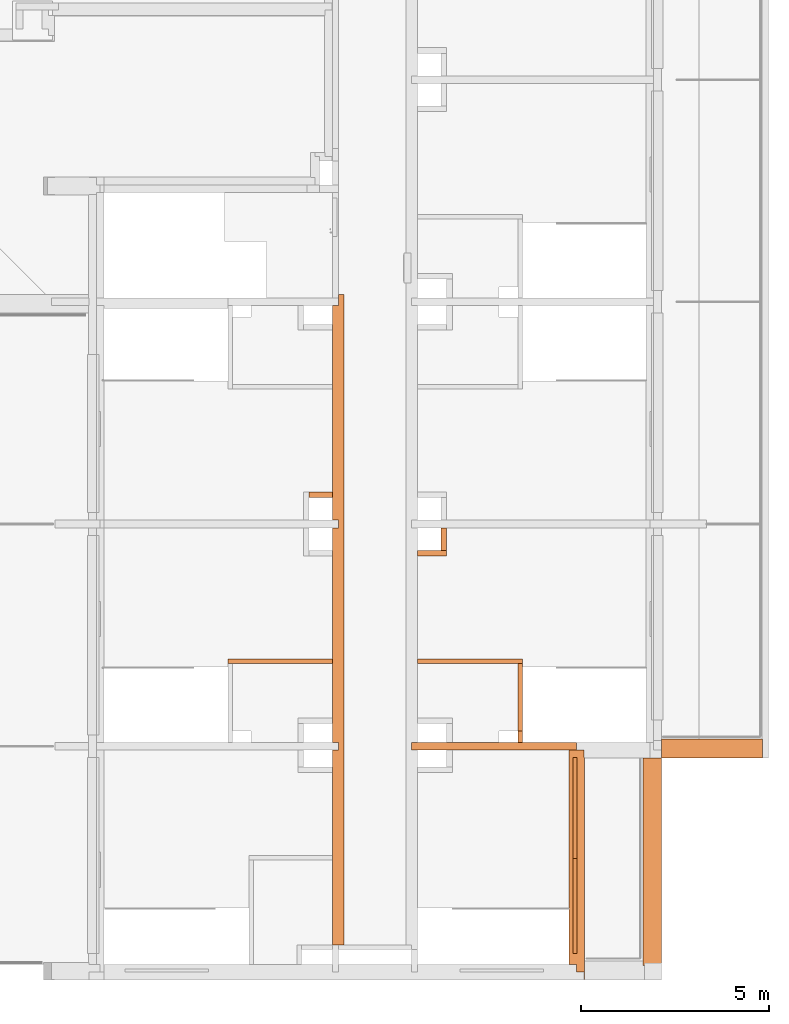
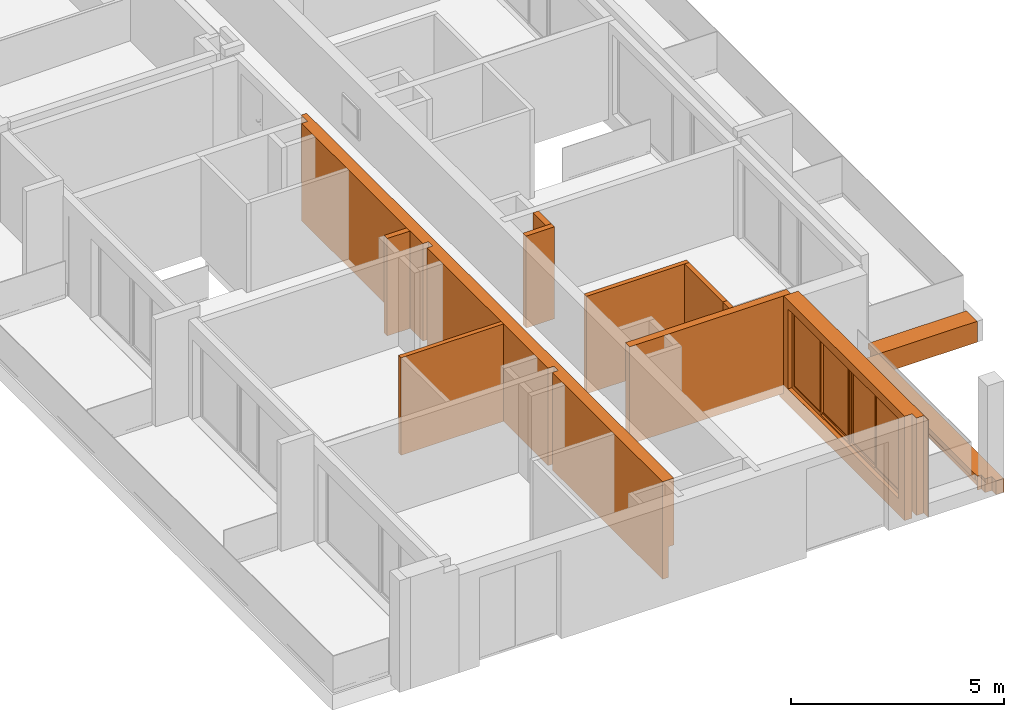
# One storey, part 27 of 30: 14 proxies, 2 openings.
"""IFC2X3 building model written with IfcOpenShell, lengths in millimetres."""

from ifc_helpers import new_model, entity, si_unit, converted_unit, derived_unit, money_unit, direction, frame, origin_with_axes, origin_2d_with_axis, place, context, subcontext, project, spatial, rectangle, extrude, open_shell, faceted_brep, surface_model, material, material_list, type_object, element, fill, save


model = new_model("IFC2X3")

# Units and contexts
model_context = context("Model", 3, precision=0.01, world=origin_with_axes(), true_north=direction((0.34421633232, 0.938890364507)))
body_context = subcontext(model_context, "Body", "Model", "MODEL_VIEW")
ifc_project = project(units=[si_unit("LENGTHUNIT", "METRE", prefix="MILLI"), si_unit("AREAUNIT", "SQUARE_METRE"), si_unit("VOLUMEUNIT", "CUBIC_METRE"), converted_unit("PLANEANGLEUNIT", "DEGREE", entity("IfcPlaneAngleMeasure", 0.0174532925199), si_unit("PLANEANGLEUNIT", "RADIAN"), dimensions=[0, 0, 0, 0, 0, 0, 0]), si_unit("SOLIDANGLEUNIT", "STERADIAN"), money_unit("USD"), converted_unit("TIMEUNIT", "Year", entity("IfcTimeMeasure", 31556926.0), si_unit("TIMEUNIT", "SECOND"), dimensions=[0, 0, 1, 0, 0, 0, 0]), si_unit("MASSUNIT", "GRAM", prefix="KILO"), si_unit("THERMODYNAMICTEMPERATUREUNIT", "DEGREE_CELSIUS"), si_unit("LUMINOUSINTENSITYUNIT", "LUMEN"), si_unit("ENERGYUNIT", "JOULE", prefix="MEGA"), derived_unit("THERMALCONDUCTANCEUNIT", [(si_unit("POWERUNIT", "WATT"), 1), (si_unit("LENGTHUNIT", "METRE"), -1), (si_unit("THERMODYNAMICTEMPERATUREUNIT", "KELVIN"), -1)]), derived_unit("SPECIFICHEATCAPACITYUNIT", [(si_unit("ENERGYUNIT", "JOULE"), 1), (si_unit("MASSUNIT", "GRAM", prefix="KILO"), -1), (si_unit("THERMODYNAMICTEMPERATUREUNIT", "KELVIN"), -1)]), derived_unit("MASSDENSITYUNIT", [(si_unit("MASSUNIT", "GRAM", prefix="KILO"), 1), (si_unit("VOLUMEUNIT", "CUBIC_METRE"), -1)])], contexts=[model_context])

# Site, building, storey
site_placement = place(None, origin_with_axes())
site = spatial("IfcSite", under=ifc_project, at=site_placement, Name="USTRONIE MORSKIE", CompositionType="ELEMENT")
building_placement = place(site_placement, origin_with_axes())
building = spatial("IfcBuilding", under=site, at=building_placement, Name="Budynek", CompositionType="ELEMENT")
storey_placement = place(building_placement, frame((0.0, 0.0, 16000.0), z_axis=(0.0, 0.0, 1.0), x_axis=(1.0, 0.0, 0.0)))
storey = spatial("IfcBuildingStorey", under=building, at=storey_placement, Name="ANTRESOLA - KOND. TECHNICZNA", CompositionType="ELEMENT", Elevation=16000.0)

# Proxies
ifc_material_1 = material(Name="Bloczki silikatowe")
building_element_proxy_type_1 = type_object("IfcBuildingElementProxyType", Name="Bloczki silikatowe 120", PredefinedType="NOTDEFINED")
proxy_1_placement = place(storey_placement, frame((420917.920919, 717361.219701, -159.999998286), z_axis=(0.0, 0.0, 1.0), x_axis=(0.0, -1.0, 0.0)))
element("IfcBuildingElementProxy", 1, at=proxy_1_placement, inside=storey, type_object=building_element_proxy_type_1, material=ifc_material_1, Name="SW-04", context=body_context, shape_type="Brep", body=[
    faceted_brep([(2160.02066499, 60.0, 0.0), (2160.02066499, -60.0, 0.0), (59.9999999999, -60.0, 0.0), (59.9999999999, 60.0, 0.0), (2160.02066499, 60.0, 2800.0), (2160.02066499, -60.0, 2800.0), (59.9999999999, -60.0, 2800.0), (59.9999999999, 60.0, 2800.0)], [[[0, 1, 2, 3]], [[1, 0, 4, 5]], [[1, 5, 6, 2]], [[7, 3, 2, 6]], [[4, 0, 3, 7]], [[5, 4, 7, 6]]]),
])
proxy_2_placement = place(storey_placement, frame((413217.920919, 717361.219701, -159.999998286), z_axis=(0.0, 0.0, 1.0), x_axis=(1.0, 0.0, 0.0)))
element("IfcBuildingElementProxy", 2, at=proxy_2_placement, inside=storey, type_object=building_element_proxy_type_1, material=ifc_material_1, Name="SW-04", context=body_context, shape_type="Brep", body=[
    faceted_brep([(2720.0, -59.9999999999, 2800.0), (2720.0, 59.9999999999, 2800.0), (-60.0, 59.9999999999, 2800.0), (-60.0, -59.9999999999, 2800.0), (2720.0, -59.9999999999, 0.0), (2720.0, 59.9999999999, 0.0), (-60.0, 59.9999999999, 0.0), (-60.0, -59.9999999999, 0.0)], [[[0, 1, 2, 3]], [[1, 0, 4, 5]], [[1, 5, 6, 2]], [[7, 3, 2, 6]], [[4, 0, 3, 7]], [[5, 4, 7, 6]]]),
])
proxy_3_placement = place(storey_placement, frame((420917.920919, 717361.219701, -159.999998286), z_axis=(0.0, 0.0, 1.0), x_axis=(-1.0, 0.0, 0.0)))
element("IfcBuildingElementProxy", 3, at=proxy_3_placement, inside=storey, type_object=building_element_proxy_type_1, material=ifc_material_1, Name="SW-04", context=body_context, shape_type="Brep", body=[
    faceted_brep([(2720.0, 59.9999999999, 0.0), (2720.0, -59.9999999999, 0.0), (-60.0, -59.9999999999, 0.0), (-60.0, 59.9999999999, 0.0), (2720.0, 59.9999999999, 2800.0), (2720.0, -59.9999999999, 2800.0), (-60.0, -59.9999999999, 2800.0), (-60.0, 59.9999999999, 2800.0)], [[[0, 1, 2, 3]], [[1, 0, 4, 5]], [[1, 5, 6, 2]], [[7, 3, 2, 6]], [[4, 0, 3, 7]], [[5, 4, 7, 6]]]),
])
proxy_4_placement = place(storey_placement, frame((420902.920919, 715501.212092, -250.0), z_axis=(0.0, 0.0, 1.0), x_axis=(0.0, -1.0, 0.0)))
element("IfcBuildingElementProxy", 4, at=proxy_4_placement, inside=storey, type_object=building_element_proxy_type_1, material=ifc_material_1, Name="SW-04", context=body_context, shape_type="Brep", body=[
    faceted_brep([(300.013055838, -45.0, 2890.0), (300.013056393, -45.0, 0.0), (300.013055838, 75.0, 0.0), (300.013055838, 75.0, 90.0), (300.013055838, 75.0, 2890.0), (0.0126111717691, -45.0, 0.0), (0.0, -45.0, 2890.0), (0.0, -45.0, 90.0), (0.0126111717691, -45.0, 90.0), (0.0126111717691, 75.0, 0.0), (0.0126111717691, 75.0, 90.0), (0.0, 75.0, 90.0), (0.0, 75.0, 2890.0)], [[[0, 1, 2, 3, 4]], [[5, 1, 0, 6, 7, 8]], [[9, 2, 1, 5]], [[4, 3, 2, 9, 10, 11, 12]], [[12, 6, 0, 4]], [[12, 11, 7, 6]], [[8, 7, 11, 10]], [[8, 10, 9, 5]]]),
])

# Proxies, openings
ifc_material_2 = material(Name="Tynk zewnętrzny")
ifc_material_3 = material(Name="Wełna ELEW")
ifc_material_4 = material(Name="Beton konstrukcyjny B25")
ifc_material_list_1 = material_list([ifc_material_2, ifc_material_3, ifc_material_4])
building_element_proxy_type_2 = type_object("IfcBuildingElementProxyType", Name="20+20 410", PredefinedType="NOTDEFINED")
proxy_5_placement = place(storey_placement, frame((422317.920919, 715101.199036, -360.0), z_axis=(0.0, 0.0, 1.0), x_axis=(0.0, -1.0, 0.0)))
proxy_5 = element("IfcBuildingElementProxy", 5, at=proxy_5_placement, inside=storey, type_object=building_element_proxy_type_2, material=ifc_material_list_1, Name="SZ-01", context=body_context, shape_type="Brep", body=[
    faceted_brep([(5800.0, 310.0, 440.0), (300.0, 310.0, 440.0), (300.0, 310.0, 3000.0), (6200.0, 310.0, 3000.0), (6200.0, 310.0, 200.0), (5800.0, 310.0, 200.0), (300.0, 300.0, 439.99999792), (5800.0, 300.0, 439.999999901), (300.0, 300.0, 3000.0), (6200.0, 300.0, 3000.0), (6200.0, 300.0, 200.0), (5800.0, 300.0, 199.999999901)], [[[0, 1, 2, 3, 4, 5]], [[6, 1, 0, 7]], [[1, 6, 8, 2]], [[3, 2, 8, 9]], [[10, 4, 3, 9]], [[11, 5, 4, 10]], [[7, 0, 5, 11]], [[7, 11, 10, 9, 8, 6]]]),
    faceted_brep([(5800.0, 300.0, 439.999999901), (99.9999999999, 300.0, 439.999999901), (100.0, 300.0, 3000.0), (6000.0, 300.0, 3000.0), (6000.0, 300.0, 200.0), (5800.0, 300.0, 199.999999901), (99.9999999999, 100.0, 439.99999792), (5800.0, 99.9999999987, 439.99999792), (100.0, 100.0, 3000.0), (6000.0, 100.0, 3000.0), (6000.0, 100.0, 200.0), (5800.0, 99.9999999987, 199.99999792)], [[[0, 1, 2, 3, 4, 5]], [[6, 1, 0, 7]], [[1, 6, 8, 2]], [[3, 2, 8, 9]], [[10, 4, 3, 9]], [[11, 5, 4, 10]], [[7, 0, 5, 11]], [[7, 11, 10, 9, 8, 6]]]),
    faceted_brep([(-100.0, -100.0, 0.0), (-100.0, -100.0, 200.0), (-100.0, 100.0, 200.0), (-100.0, 100.0, 0.0), (100.0, -100.0, 3000.0), (100.0, -100.0, 200.0), (5800.0, -100.0, 0.0), (5800.0, -100.0, 3000.0), (100.0, 100.0, 200.0), (100.0, 100.0, 3000.0), (5800.0, 100.0, 3000.0), (5800.0, 100.0, 0.0)], [[[0, 1, 2, 3]], [[4, 5, 1, 0, 6, 7]], [[5, 8, 2, 1]], [[2, 8, 9, 10, 11, 3]], [[3, 11, 6, 0]], [[5, 4, 9, 8]], [[11, 10, 7, 6]], [[10, 9, 4, 7]]]),
])
opening_1_placement = place(proxy_5_placement, frame((1640.0, 0.0, 450.0), z_axis=(0.0, 0.0, 1.0), x_axis=(1.0, 0.0, 0.0)))
opening_1 = element("IfcOpeningElement", 6, at=opening_1_placement, cuts=proxy_5, Name="Wz.04", context=body_context, shape_type="SweptSolid", body=[
    extrude(rectangle(XDim=2680.0, YDim=2300.0, at=origin_2d_with_axis()), frame((0.0, 110.0, 1150.0), z_axis=(0.0, 1.0, 0.0), x_axis=(-1.0, 0.0, 0.0)), (0.0, 0.0, -1.0), 620.0),
    extrude(rectangle(XDim=2680.0, YDim=2300.0, at=origin_2d_with_axis()), frame((0.0, 110.0, 1150.0), z_axis=(0.0, -1.0, 0.0), x_axis=(-1.0, 0.0, 0.0)), (0.0, 0.0, -1.0), 610.0),
])
opening_2_placement = place(proxy_5_placement, frame((4240.0, 0.0, 450.0), z_axis=(0.0, 0.0, 1.0), x_axis=(1.0, 0.0, 0.0)))
opening_2 = element("IfcOpeningElement", 7, at=opening_2_placement, cuts=proxy_5, Name="Wz.04", context=body_context, shape_type="SweptSolid", body=[
    extrude(rectangle(XDim=2520.0, YDim=2300.0, at=origin_2d_with_axis()), frame((0.0, 110.0, 1150.0), z_axis=(0.0, -1.0, 0.0), x_axis=(1.0, 0.0, 0.0)), (0.0, 0.0, 1.0), 620.0),
    extrude(rectangle(XDim=2520.0, YDim=2300.0, at=origin_2d_with_axis()), frame((0.0, 110.0, 1150.0), z_axis=(0.0, 1.0, 0.0), x_axis=(1.0, 0.0, 0.0)), (0.0, 0.0, 1.0), 610.0),
])
building_element_proxy_type_3 = type_object("IfcBuildingElementProxyType", Name="Okno przesuwne, 2-skrzydłowe 23", PredefinedType="NOTDEFINED")
proxy_6_placement = place(opening_1_placement, frame((1340.0, 0.0, 0.0), z_axis=(0.0, 0.0, 1.0), x_axis=(-1.0, 0.0, 0.0)))
proxy_6 = element("IfcBuildingElementProxy", 8, at=proxy_6_placement, inside=storey, type_object=building_element_proxy_type_3, Name="Wz.04", context=body_context, shape_type="SurfaceModel", body=[
    faceted_brep([(50.0, -110.0, 50.0), (50.0, -9.99999999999, 50.0), (50.0, -9.99999999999, 2250.0), (50.0, -110.0, 2250.0), (0.0, -110.0, 50.0), (0.0, -9.99999999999, 50.0), (0.0, -9.99999999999, 2250.0), (0.0, -110.0, 2250.0)], [[[0, 1, 2, 3]], [[4, 5, 1, 0]], [[1, 5, 6, 2]], [[3, 2, 6, 7]], [[0, 3, 7, 4]], [[7, 6, 5, 4]]]),
    faceted_brep([(2680.0, -110.0, 50.0), (2680.0, -9.99999999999, 50.0), (2680.0, -9.99999999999, 2250.0), (2680.0, -110.0, 2250.0), (2630.0, -110.0, 50.0), (2630.0, -9.99999999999, 50.0), (2630.0, -9.99999999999, 2250.0), (2630.0, -110.0, 2250.0)], [[[0, 1, 2, 3]], [[4, 5, 1, 0]], [[1, 5, 6, 2]], [[3, 2, 6, 7]], [[0, 3, 7, 4]], [[7, 6, 5, 4]]]),
    faceted_brep([(2680.0, -110.0, 50.0), (2680.0, -9.99999999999, 50.0), (2630.0, -9.99999999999, 50.0), (2630.0, -110.0, 50.0), (2680.0, -110.0, 0.0), (2680.0, -9.99999999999, 0.0), (0.0, -9.99999999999, 0.0), (0.0, -9.99999999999, 50.0), (50.0, -9.99999999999, 50.0), (50.0, -110.0, 50.0), (0.0, -110.0, 50.0), (0.0, -110.0, 0.0)], [[[0, 1, 2, 3]], [[4, 5, 1, 0]], [[1, 5, 6, 7, 8, 2]], [[3, 2, 8, 9]], [[0, 3, 9, 10, 11, 4]], [[11, 6, 5, 4]], [[10, 7, 6, 11]], [[9, 8, 7, 10]]]),
    faceted_brep([(2680.0, -110.0, 2300.0), (2680.0, -9.99999999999, 2300.0), (0.0, -9.99999999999, 2300.0), (0.0, -110.0, 2300.0), (2680.0, -110.0, 2250.0), (2680.0, -9.99999999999, 2250.0), (2630.0, -9.99999999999, 2250.0), (50.0, -9.99999999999, 2250.0), (0.0, -9.99999999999, 2250.0), (0.0, -110.0, 2250.0), (50.0, -110.0, 2250.0), (2630.0, -110.0, 2250.0)], [[[0, 1, 2, 3]], [[4, 5, 1, 0]], [[1, 5, 6, 7, 8, 2]], [[3, 2, 8, 9]], [[0, 3, 9, 10, 11, 4]], [[11, 6, 5, 4]], [[10, 7, 6, 11]], [[9, 8, 7, 10]]]),
    faceted_brep([(99.9999999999, -110.0, 2200.0), (99.9999999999, -60.0, 2200.0), (50.0, -60.0, 2200.0), (50.0, -110.0, 2200.0), (99.9999999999, -110.0, 100.0), (99.9999999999, -60.0, 100.0), (50.0, -60.0, 100.0), (50.0, -110.0, 100.0)], [[[0, 1, 2, 3]], [[4, 5, 1, 0]], [[1, 5, 6, 2]], [[3, 2, 6, 7]], [[0, 3, 7, 4]], [[7, 6, 5, 4]]]),
    faceted_brep([(1315.0, -110.0, 100.0), (1315.0, -60.0, 100.0), (1365.0, -60.0, 100.0), (1365.0, -110.0, 100.0), (1315.0, -110.0, 2200.0), (1315.0, -60.0, 2200.0), (1365.0, -60.0, 2200.0), (1365.0, -110.0, 2200.0)], [[[0, 1, 2, 3]], [[4, 5, 1, 0]], [[1, 5, 6, 2]], [[3, 2, 6, 7]], [[0, 3, 7, 4]], [[7, 6, 5, 4]]]),
    faceted_brep([(1365.0, -110.0, 50.0), (1365.0, -60.0, 50.0), (1365.0, -60.0, 100.0), (1365.0, -110.0, 100.0), (50.0, -110.0, 50.0), (50.0, -60.0, 50.0), (50.0, -60.0, 100.0), (99.9999999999, -60.0, 100.0), (1315.0, -60.0, 100.0), (1315.0, -110.0, 100.0), (99.9999999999, -110.0, 100.0), (50.0, -110.0, 100.0)], [[[0, 1, 2, 3]], [[4, 5, 1, 0]], [[1, 5, 6, 7, 8, 2]], [[3, 2, 8, 9]], [[0, 3, 9, 10, 11, 4]], [[11, 6, 5, 4]], [[10, 7, 6, 11]], [[9, 8, 7, 10]]]),
    faceted_brep([(50.0, -110.0, 2250.0), (50.0, -60.0, 2250.0), (50.0, -60.0, 2200.0), (50.0, -110.0, 2200.0), (1365.0, -110.0, 2250.0), (1365.0, -60.0, 2250.0), (1365.0, -60.0, 2200.0), (1315.0, -60.0, 2200.0), (99.9999999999, -60.0, 2200.0), (99.9999999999, -110.0, 2200.0), (1315.0, -110.0, 2200.0), (1365.0, -110.0, 2200.0)], [[[0, 1, 2, 3]], [[4, 5, 1, 0]], [[1, 5, 6, 7, 8, 2]], [[3, 2, 8, 9]], [[0, 3, 9, 10, 11, 4]], [[11, 6, 5, 4]], [[10, 7, 6, 11]], [[9, 8, 7, 10]]]),
    surface_model("IfcShellBasedSurfaceModel", [(99.9999999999, -95.0, 100.0), (1315.0, -95.0, 100.0), (1315.0, -95.0, 2200.0), (99.9999999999, -95.0, 2200.0)], [open_shell([[[0, 1, 2, 3]]])]),
    surface_model("IfcShellBasedSurfaceModel", [(99.9999999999, -75.0, 100.0), (99.9999999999, -75.0, 2200.0), (1315.0, -75.0, 2200.0), (1315.0, -75.0, 100.0)], [open_shell([[[0, 1, 2, 3]]])]),
    faceted_brep([(1365.0, -60.0, 2200.0), (1365.0, -9.99999999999, 2200.0), (1315.0, -9.99999999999, 2200.0), (1315.0, -60.0, 2200.0), (1365.0, -60.0, 100.0), (1365.0, -9.99999999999, 100.0), (1315.0, -9.99999999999, 100.0), (1315.0, -60.0, 100.0)], [[[0, 1, 2, 3]], [[4, 5, 1, 0]], [[1, 5, 6, 2]], [[3, 2, 6, 7]], [[0, 3, 7, 4]], [[7, 6, 5, 4]]]),
    faceted_brep([(2580.0, -60.0, 100.0), (2580.0, -9.99999999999, 100.0), (2630.0, -9.99999999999, 100.0), (2630.0, -60.0, 100.0), (2580.0, -60.0, 2200.0), (2580.0, -9.99999999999, 2200.0), (2630.0, -9.99999999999, 2200.0), (2630.0, -60.0, 2200.0)], [[[0, 1, 2, 3]], [[4, 5, 1, 0]], [[1, 5, 6, 2]], [[3, 2, 6, 7]], [[0, 3, 7, 4]], [[7, 6, 5, 4]]]),
    faceted_brep([(2630.0, -60.0, 50.0), (2630.0, -9.99999999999, 50.0), (2630.0, -9.99999999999, 100.0), (2630.0, -60.0, 100.0), (1315.0, -60.0, 50.0), (1315.0, -9.99999999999, 50.0), (1315.0, -9.99999999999, 100.0), (1365.0, -9.99999999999, 100.0), (2580.0, -9.99999999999, 100.0), (2580.0, -60.0, 100.0), (1365.0, -60.0, 100.0), (1315.0, -60.0, 100.0)], [[[0, 1, 2, 3]], [[4, 5, 1, 0]], [[1, 5, 6, 7, 8, 2]], [[3, 2, 8, 9]], [[0, 3, 9, 10, 11, 4]], [[11, 6, 5, 4]], [[10, 7, 6, 11]], [[9, 8, 7, 10]]]),
    faceted_brep([(1315.0, -60.0, 2250.0), (1315.0, -9.99999999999, 2250.0), (1315.0, -9.99999999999, 2200.0), (1315.0, -60.0, 2200.0), (2630.0, -60.0, 2250.0), (2630.0, -9.99999999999, 2250.0), (2630.0, -9.99999999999, 2200.0), (2580.0, -9.99999999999, 2200.0), (1365.0, -9.99999999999, 2200.0), (1365.0, -60.0, 2200.0), (2580.0, -60.0, 2200.0), (2630.0, -60.0, 2200.0)], [[[0, 1, 2, 3]], [[4, 5, 1, 0]], [[1, 5, 6, 7, 8, 2]], [[3, 2, 8, 9]], [[0, 3, 9, 10, 11, 4]], [[11, 6, 5, 4]], [[10, 7, 6, 11]], [[9, 8, 7, 10]]]),
    surface_model("IfcShellBasedSurfaceModel", [(1365.0, -45.0, 100.0), (2580.0, -45.0, 100.0), (2580.0, -45.0, 2200.0), (1365.0, -45.0, 2200.0)], [open_shell([[[0, 1, 2, 3]]])]),
    surface_model("IfcShellBasedSurfaceModel", [(1365.0, -25.0, 100.0), (1365.0, -25.0, 2200.0), (2580.0, -25.0, 2200.0), (2580.0, -25.0, 100.0)], [open_shell([[[0, 1, 2, 3]]])]),
])
fill(opening_1, proxy_6)
proxy_7_placement = place(opening_2_placement, frame((1260.0, 0.0, 0.0), z_axis=(0.0, 0.0, 1.0), x_axis=(-1.0, 0.0, 0.0)))
proxy_7 = element("IfcBuildingElementProxy", 9, at=proxy_7_placement, inside=storey, type_object=building_element_proxy_type_3, Name="Wz.04", context=body_context, shape_type="SurfaceModel", body=[
    faceted_brep([(2470.0, -110.0, 50.0), (2470.0, -110.0, 2250.0), (2470.0, -9.99999999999, 2250.0), (2470.0, -9.99999999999, 50.0), (2520.0, -110.0, 50.0), (2520.0, -110.0, 2250.0), (2520.0, -9.99999999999, 2250.0), (2520.0, -9.99999999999, 50.0)], [[[0, 1, 2, 3]], [[0, 4, 5, 1]], [[1, 5, 6, 2]], [[3, 2, 6, 7]], [[4, 0, 3, 7]], [[5, 4, 7, 6]]]),
    faceted_brep([(0.0, -110.0, 50.0), (0.0, -110.0, 2250.0), (0.0, -9.99999999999, 2250.0), (0.0, -9.99999999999, 50.0), (50.0, -110.0, 50.0), (50.0, -110.0, 2250.0), (50.0, -9.99999999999, 2250.0), (50.0, -9.99999999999, 50.0)], [[[0, 1, 2, 3]], [[0, 4, 5, 1]], [[1, 5, 6, 2]], [[3, 2, 6, 7]], [[4, 0, 3, 7]], [[5, 4, 7, 6]]]),
    faceted_brep([(0.0, -110.0, 50.0), (50.0, -110.0, 50.0), (50.0, -9.99999999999, 50.0), (0.0, -9.99999999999, 50.0), (0.0, -110.0, 0.0), (2520.0, -110.0, 0.0), (2520.0, -110.0, 50.0), (2470.0, -110.0, 50.0), (2470.0, -9.99999999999, 50.0), (2520.0, -9.99999999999, 50.0), (2520.0, -9.99999999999, 0.0), (0.0, -9.99999999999, 0.0)], [[[0, 1, 2, 3]], [[0, 4, 5, 6, 7, 1]], [[1, 7, 8, 2]], [[3, 2, 8, 9, 10, 11]], [[4, 0, 3, 11]], [[5, 4, 11, 10]], [[6, 5, 10, 9]], [[7, 6, 9, 8]]]),
    faceted_brep([(0.0, -110.0, 2300.0), (2520.0, -110.0, 2300.0), (2520.0, -9.99999999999, 2300.0), (0.0, -9.99999999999, 2300.0), (0.0, -110.0, 2250.0), (50.0, -110.0, 2250.0), (2470.0, -110.0, 2250.0), (2520.0, -110.0, 2250.0), (2520.0, -9.99999999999, 2250.0), (2470.0, -9.99999999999, 2250.0), (50.0, -9.99999999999, 2250.0), (0.0, -9.99999999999, 2250.0)], [[[0, 1, 2, 3]], [[0, 4, 5, 6, 7, 1]], [[1, 7, 8, 2]], [[3, 2, 8, 9, 10, 11]], [[4, 0, 3, 11]], [[5, 4, 11, 10]], [[6, 5, 10, 9]], [[7, 6, 9, 8]]]),
    faceted_brep([(2420.0, -110.0, 2200.0), (2470.0, -110.0, 2200.0), (2470.0, -60.0, 2200.0), (2420.0, -60.0, 2200.0), (2420.0, -110.0, 100.0), (2470.0, -110.0, 100.0), (2470.0, -60.0, 100.0), (2420.0, -60.0, 100.0)], [[[0, 1, 2, 3]], [[0, 4, 5, 1]], [[1, 5, 6, 2]], [[3, 2, 6, 7]], [[4, 0, 3, 7]], [[5, 4, 7, 6]]]),
    faceted_brep([(1285.0, -110.0, 100.0), (1235.0, -110.0, 100.0), (1235.0, -60.0, 100.0), (1285.0, -60.0, 100.0), (1285.0, -110.0, 2200.0), (1235.0, -110.0, 2200.0), (1235.0, -60.0, 2200.0), (1285.0, -60.0, 2200.0)], [[[0, 1, 2, 3]], [[0, 4, 5, 1]], [[1, 5, 6, 2]], [[3, 2, 6, 7]], [[4, 0, 3, 7]], [[5, 4, 7, 6]]]),
    faceted_brep([(1235.0, -110.0, 50.0), (1235.0, -110.0, 100.0), (1235.0, -60.0, 100.0), (1235.0, -60.0, 50.0), (2470.0, -110.0, 50.0), (2470.0, -110.0, 100.0), (2420.0, -110.0, 100.0), (1285.0, -110.0, 100.0), (1285.0, -60.0, 100.0), (2420.0, -60.0, 100.0), (2470.0, -60.0, 100.0), (2470.0, -60.0, 50.0)], [[[0, 1, 2, 3]], [[0, 4, 5, 6, 7, 1]], [[1, 7, 8, 2]], [[3, 2, 8, 9, 10, 11]], [[4, 0, 3, 11]], [[5, 4, 11, 10]], [[6, 5, 10, 9]], [[7, 6, 9, 8]]]),
    faceted_brep([(2470.0, -110.0, 2250.0), (2470.0, -110.0, 2200.0), (2470.0, -60.0, 2200.0), (2470.0, -60.0, 2250.0), (1235.0, -110.0, 2250.0), (1235.0, -110.0, 2200.0), (1285.0, -110.0, 2200.0), (2420.0, -110.0, 2200.0), (2420.0, -60.0, 2200.0), (1285.0, -60.0, 2200.0), (1235.0, -60.0, 2200.0), (1235.0, -60.0, 2250.0)], [[[0, 1, 2, 3]], [[0, 4, 5, 6, 7, 1]], [[1, 7, 8, 2]], [[3, 2, 8, 9, 10, 11]], [[4, 0, 3, 11]], [[5, 4, 11, 10]], [[6, 5, 10, 9]], [[7, 6, 9, 8]]]),
    surface_model("IfcShellBasedSurfaceModel", [(2420.0, -95.0, 100.0), (2420.0, -95.0, 2200.0), (1285.0, -95.0, 2200.0), (1285.0, -95.0, 100.0)], [open_shell([[[0, 1, 2, 3]]])]),
    surface_model("IfcShellBasedSurfaceModel", [(2420.0, -75.0, 100.0), (1285.0, -75.0, 100.0), (1285.0, -75.0, 2200.0), (2420.0, -75.0, 2200.0)], [open_shell([[[0, 1, 2, 3]]])]),
    faceted_brep([(1235.0, -60.0, 2200.0), (1285.0, -60.0, 2200.0), (1285.0, -9.99999999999, 2200.0), (1235.0, -9.99999999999, 2200.0), (1235.0, -60.0, 100.0), (1285.0, -60.0, 100.0), (1285.0, -9.99999999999, 100.0), (1235.0, -9.99999999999, 100.0)], [[[0, 1, 2, 3]], [[0, 4, 5, 1]], [[1, 5, 6, 2]], [[3, 2, 6, 7]], [[4, 0, 3, 7]], [[5, 4, 7, 6]]]),
    faceted_brep([(100.0, -60.0, 100.0), (50.0, -60.0, 100.0), (50.0, -9.99999999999, 100.0), (100.0, -9.99999999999, 100.0), (100.0, -60.0, 2200.0), (50.0, -60.0, 2200.0), (50.0, -9.99999999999, 2200.0), (100.0, -9.99999999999, 2200.0)], [[[0, 1, 2, 3]], [[0, 4, 5, 1]], [[1, 5, 6, 2]], [[3, 2, 6, 7]], [[4, 0, 3, 7]], [[5, 4, 7, 6]]]),
    faceted_brep([(50.0, -60.0, 50.0), (50.0, -60.0, 100.0), (50.0, -9.99999999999, 100.0), (50.0, -9.99999999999, 50.0), (1285.0, -60.0, 50.0), (1285.0, -60.0, 100.0), (1235.0, -60.0, 100.0), (100.0, -60.0, 100.0), (100.0, -9.99999999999, 100.0), (1235.0, -9.99999999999, 100.0), (1285.0, -9.99999999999, 100.0), (1285.0, -9.99999999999, 50.0)], [[[0, 1, 2, 3]], [[0, 4, 5, 6, 7, 1]], [[1, 7, 8, 2]], [[3, 2, 8, 9, 10, 11]], [[4, 0, 3, 11]], [[5, 4, 11, 10]], [[6, 5, 10, 9]], [[7, 6, 9, 8]]]),
    faceted_brep([(1285.0, -60.0, 2250.0), (1285.0, -60.0, 2200.0), (1285.0, -9.99999999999, 2200.0), (1285.0, -9.99999999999, 2250.0), (50.0, -60.0, 2250.0), (50.0, -60.0, 2200.0), (100.0, -60.0, 2200.0), (1235.0, -60.0, 2200.0), (1235.0, -9.99999999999, 2200.0), (100.0, -9.99999999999, 2200.0), (50.0, -9.99999999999, 2200.0), (50.0, -9.99999999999, 2250.0)], [[[0, 1, 2, 3]], [[0, 4, 5, 6, 7, 1]], [[1, 7, 8, 2]], [[3, 2, 8, 9, 10, 11]], [[4, 0, 3, 11]], [[5, 4, 11, 10]], [[6, 5, 10, 9]], [[7, 6, 9, 8]]]),
    surface_model("IfcShellBasedSurfaceModel", [(1235.0, -45.0, 100.0), (1235.0, -45.0, 2200.0), (100.0, -45.0, 2200.0), (100.0, -45.0, 100.0)], [open_shell([[[0, 1, 2, 3]]])]),
    surface_model("IfcShellBasedSurfaceModel", [(1235.0, -25.0, 100.0), (100.0, -25.0, 100.0), (100.0, -25.0, 2200.0), (1235.0, -25.0, 2200.0)], [open_shell([[[0, 1, 2, 3]]])]),
])
fill(opening_2, proxy_7)

# Proxies
building_element_proxy_type_4 = type_object("IfcBuildingElementProxyType", Name="Bloczki silikatowe 150", PredefinedType="NOTDEFINED")
proxy_8_placement = place(storey_placement, frame((415317.920919, 721701.199036, -160.0), z_axis=(0.0, 0.0, 1.0), x_axis=(1.0, 0.0, 0.0)))
element("IfcBuildingElementProxy", 10, at=proxy_8_placement, inside=storey, type_object=building_element_proxy_type_4, material=ifc_material_1, Name="SW-03", context=body_context, shape_type="Brep", body=[
    faceted_brep([(620.0, 150.0, 0.0), (620.0, 0.0, 0.0), (0.0, 0.0, 0.0), (0.0, 150.0, 0.0), (620.0, 150.0, 2800.0), (620.0, 0.0, 2800.0), (0.0, 0.0, 2800.0), (0.0, 150.0, 2800.0)], [[[0, 1, 2, 3]], [[1, 0, 4, 5]], [[1, 5, 6, 2]], [[7, 3, 2, 6]], [[4, 0, 3, 7]], [[5, 4, 7, 6]]]),
])
proxy_9_placement = place(storey_placement, frame((418817.920919, 720301.199891, 0.0), z_axis=(0.0, 0.0, 1.0), x_axis=(0.0, 1.0, 0.0)))
element("IfcBuildingElementProxy", 11, at=proxy_9_placement, inside=storey, type_object=building_element_proxy_type_4, material=ifc_material_1, Name="SW-03", context=body_context, shape_type="Brep", body=[
    faceted_brep([(600.013239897, 0.0, 2640.0), (0.0, 0.0, 2640.0), (0.0, -150.0, 2640.0), (600.013101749, -150.0, 2640.0), (0.0, 0.0, 0.0), (600.013239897, 0.0, 0.0), (0.0, -150.0, 0.0), (600.013101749, -150.0, 0.0)], [[[0, 1, 2, 3]], [[4, 1, 0, 5]], [[6, 2, 1, 4]], [[3, 2, 6, 7]], [[5, 0, 3, 7]], [[6, 4, 5, 7]]]),
])
proxy_10_placement = place(storey_placement, frame((418117.920919, 720301.199891, 0.0), z_axis=(0.0, 0.0, 1.0), x_axis=(1.0, 0.0, 0.0)))
element("IfcBuildingElementProxy", 12, at=proxy_10_placement, inside=storey, type_object=building_element_proxy_type_4, material=ifc_material_1, Name="SW-03", context=body_context, shape_type="Brep", body=[
    faceted_brep([(80.0, 0.0, 0.0), (80.0, 0.0, 2640.0), (850.0, 0.0, 2640.0), (850.0, 0.0, 0.0), (80.0, -150.0, 0.0), (80.0, -150.0, 2640.0), (850.0, -150.0, 2640.0), (850.0, -150.0, 0.0)], [[[0, 1, 2, 3]], [[4, 5, 1, 0]], [[5, 6, 2, 1]], [[3, 2, 6, 7]], [[3, 7, 4, 0]], [[7, 6, 5, 4]]]),
])
building_element_proxy_type_5 = type_object("IfcBuildingElementProxyType", Name="Beton konstrukcyjny B25 200", PredefinedType="NOTDEFINED")
proxy_11_placement = place(storey_placement, frame((418117.920919, 715101.199036, -160.0), z_axis=(0.0, 0.0, 1.0), x_axis=(1.0, 0.0, 0.0)))
element("IfcBuildingElementProxy", 13, at=proxy_11_placement, inside=storey, type_object=building_element_proxy_type_5, material=ifc_material_4, Name="SW-01", context=body_context, shape_type="Brep", body=[
    faceted_brep([(-80.0, -100.0, 0.0), (-80.0, 100.0, 0.0), (4300.0, 100.0, 0.0), (4300.0, -100.0, 0.0), (-80.0, -100.0, 2800.0), (-80.0, 100.0, 2800.0), (4300.0, 100.0, 2800.0), (4300.0, -100.0, 2800.0)], [[[0, 1, 2, 3]], [[0, 4, 5, 1]], [[1, 5, 6, 2]], [[6, 7, 3, 2]], [[4, 0, 3, 7]], [[5, 4, 7, 6]]]),
])
ifc_material_5 = material(Name="Izolacja akustyczna")
ifc_material_list_2 = material_list([ifc_material_5, ifc_material_4])
building_element_proxy_type_6 = type_object("IfcBuildingElementProxyType", Name="16+15 AKU 310", PredefinedType="NOTDEFINED")
proxy_12_placement = place(storey_placement, frame((416017.920919, 726901.199036, -250.0), z_axis=(0.0, 0.0, 1.0), x_axis=(0.0, -1.0, 0.0)))
element("IfcBuildingElementProxy", 14, at=proxy_12_placement, inside=storey, type_object=building_element_proxy_type_6, material=ifc_material_list_2, Name="Œciana-007", context=body_context, shape_type="Brep", body=[
    faceted_brep([(17080.0, 230.0, 2890.0), (17080.0, 230.0, 970.0), (-200.0, 230.0, 970.0), (-200.0, 230.0, 2890.0), (0.0, 230.0, 2890.0), (17080.0, 80.0, 2890.0), (17080.0, 79.9973322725, 970.0), (-200.0, 79.9973322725, 970.0), (-200.0, 80.0, 2890.0), (0.0, 80.0, 2890.0)], [[[0, 1, 2, 3, 4]], [[5, 6, 1, 0]], [[6, 7, 2, 1]], [[3, 2, 7, 8]], [[8, 9, 4, 3]], [[0, 4, 9, 5]], [[8, 7, 6, 5, 9]]]),
    faceted_brep([(11900.0, -80.0, 2890.0), (17080.0, -80.0, 2890.0), (17080.0, 80.0, 2890.0), (11900.0, 80.0, 2890.0), (17080.0, -80.0, 90.0), (11900.0, -80.0, 90.0), (17080.0, 80.0, 90.0), (11900.0, 80.0, 90.0)], [[[0, 1, 2, 3]], [[4, 1, 0, 5]], [[6, 2, 1, 4]], [[3, 2, 6, 7]], [[5, 0, 3, 7]], [[5, 7, 6, 4]]]),
    faceted_brep([(100.0, -80.0, 90.0), (100.0, -80.0, 2890.0), (100.0, 80.0, 2890.0), (100.0, 80.0, 90.0), (5799.98347283, -80.0, 2890.0), (5799.98347283, -80.0, 90.0), (5799.98362019, 80.0, 2890.0), (5799.98362019, 80.0, 90.0)], [[[0, 1, 2, 3]], [[4, 1, 0, 5]], [[6, 2, 1, 4]], [[3, 2, 6, 7]], [[7, 5, 0, 3]], [[7, 6, 4, 5]]]),
    faceted_brep([(5999.98362019, 80.0, 2890.0), (11700.0, 80.0, 2890.0), (11700.0, 80.0, 90.0), (5999.98362019, 80.0, 90.0), (5999.98347283, -80.0, 2890.0), (11700.0, -80.0, 2890.0), (11700.0, -80.0, 90.0), (5999.98347283, -80.0, 90.0)], [[[0, 1, 2, 3]], [[1, 0, 4, 5]], [[2, 1, 5, 6]], [[7, 3, 2, 6]], [[7, 4, 0, 3]], [[5, 4, 7, 6]]]),
])
ifc_material_list_3 = material_list([ifc_material_2, ifc_material_3, ifc_material_1, ifc_material_3, ifc_material_2])
building_element_proxy_type_7 = type_object("IfcBuildingElementProxyType", Name="18 SILIKAT+20-10 500", PredefinedType="NOTDEFINED")
proxy_13_placement = place(storey_placement, frame((424677.920919, 715091.199036, -360.000002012), z_axis=(0.0, 0.0, 1.0), x_axis=(1.0, 0.0, 0.0)))
element("IfcBuildingElementProxy", 15, at=proxy_13_placement, inside=storey, type_object=building_element_proxy_type_7, material=ifc_material_list_3, Name="Œciana-006", context=body_context, shape_type="Brep", body=[
    faceted_brep([(2679.99368373, 190.0, 439.999999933), (0.0, 190.0, 439.999999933), (0.0, 200.0, 439.999999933), (2679.99368373, 200.0, 439.999999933), (2679.99368373, 190.0, 600.000002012), (0.0, 190.0, 600.000002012), (0.0, 200.0, 600.000002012), (2679.99368373, 200.0, 600.000002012)], [[[0, 1, 2, 3]], [[1, 0, 4, 5]], [[2, 1, 5, 6]], [[2, 6, 7, 3]], [[0, 3, 7, 4]], [[4, 7, 6, 5]]]),
    faceted_brep([(2679.99368373, 110.000000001, 439.999999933), (0.0, 110.0, 439.999999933), (0.0, 190.0, 439.999999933), (2679.99368373, 190.0, 439.999999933), (2679.99368373, 110.000000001, -6.70787869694e-08), (990.0, 110.000000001, -6.70787869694e-08), (0.0, 110.0, -6.70787869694e-08), (0.0, 90.0, 0.0), (0.0, 90.0, 600.000002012), (0.0, 190.0, 600.000002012), (2679.99368373, 190.0, 600.000002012), (2679.99368373, 90.0, 600.000002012), (2679.99368373, 90.0, 0.0)], [[[0, 1, 2, 3]], [[0, 4, 5, 6, 1]], [[1, 6, 7, 8, 9, 2]], [[2, 9, 10, 3]], [[0, 3, 10, 11, 12, 4]], [[6, 5, 4, 12, 7]], [[12, 11, 8, 7]], [[11, 10, 9, 8]]]),
    faceted_brep([(2679.99368373, -90.0, 0.0), (0.0, -90.0, 0.0), (0.0, 90.0, 0.0), (2679.99368373, 90.0, 0.0), (2679.99368373, -90.0, 600.000002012), (0.0, -90.0, 600.000002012), (0.0, 90.0, 600.000002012), (2679.99368373, 90.0, 600.000002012)], [[[0, 1, 2, 3]], [[4, 5, 1, 0]], [[2, 1, 5, 6]], [[3, 2, 6, 7]], [[3, 7, 4, 0]], [[7, 6, 5, 4]]]),
    faceted_brep([(2679.99368373, -290.0, 0.0), (0.0, -290.0, 0.0), (0.0, -90.0, 0.0), (2679.99368373, -90.0, 0.0), (2679.99368373, -290.0, 600.000002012), (0.0, -290.0, 600.000002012), (0.0, -90.0, 600.000002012), (2679.99368373, -90.0, 600.000002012)], [[[0, 1, 2, 3]], [[4, 5, 1, 0]], [[2, 1, 5, 6]], [[3, 2, 6, 7]], [[3, 7, 4, 0]], [[7, 6, 5, 4]]]),
    faceted_brep([(2679.99368373, -300.0, 0.0), (0.0, -300.0, 0.0), (0.0, -290.0, 0.0), (2679.99368373, -290.0, 0.0), (2679.99368373, -300.0, 600.000002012), (0.0, -300.0, 600.000002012), (0.0, -290.0, 600.000002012), (2679.99368373, -290.0, 600.000002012)], [[[0, 1, 2, 3]], [[4, 5, 1, 0]], [[2, 1, 5, 6]], [[3, 2, 6, 7]], [[3, 7, 4, 0]], [[7, 6, 5, 4]]]),
])
proxy_14_placement = place(storey_placement, frame((424377.920919, 709191.199036, -160.000002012), z_axis=(0.0, 0.0, 1.0), x_axis=(0.0, 1.0, 0.0)))
element("IfcBuildingElementProxy", 16, at=proxy_14_placement, inside=storey, type_object=building_element_proxy_type_7, material=ifc_material_list_3, Name="Œciana-006", context=body_context, shape_type="Brep", body=[
    faceted_brep([(190.0, 190.0, 239.999999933), (5600.0, 190.0, 239.999999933), (5600.0, 190.0, 400.000002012), (190.0, 190.0, 400.000002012), (5600.0, 200.0, 239.999999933), (190.0, 200.0, 239.999999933), (5600.0, 200.0, 400.000002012), (190.0, 200.0, 400.000002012)], [[[0, 1, 2, 3]], [[4, 1, 0, 5]], [[1, 4, 6, 2]], [[3, 2, 6, 7]], [[5, 0, 3, 7]], [[4, 5, 7, 6]]]),
    faceted_brep([(5600.0, 110.0, 239.999999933), (5600.0, 190.0, 239.999999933), (5600.0, 190.0, 400.000002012), (5600.0, 90.0, 400.000002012), (5600.0, 90.0, 0.0), (5600.0, 110.0, -6.70787869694e-08), (110.0, 110.000000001, 239.999999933), (110.0, 190.0, 239.999999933), (110.0, 190.0, -6.70787869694e-08), (90.0, 190.0, 0.0), (90.0, 190.0, 400.000002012), (90.0, 90.0, 400.000002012), (90.0, 90.0, 0.0), (110.0, 110.000000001, -6.70787869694e-08)], [[[0, 1, 2, 3, 4, 5]], [[1, 0, 6, 7]], [[7, 8, 9, 10, 2, 1]], [[11, 3, 2, 10]], [[12, 4, 3, 11]], [[13, 5, 4, 12, 9, 8]], [[6, 0, 5, 13]], [[7, 6, 13, 8]], [[10, 9, 12, 11]]]),
    faceted_brep([(5600.0, 90.0, 0.0), (5600.0, -90.0, 0.0), (-90.0, -90.0, 0.0), (-90.0, 90.0, 0.0), (5600.0, 90.0, 400.000002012), (5600.0, -90.0, 400.000002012), (-90.0, -90.0, 400.000002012), (-90.0, 90.0, 400.000002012)], [[[0, 1, 2, 3]], [[0, 4, 5, 1]], [[1, 5, 6, 2]], [[3, 2, 6, 7]], [[4, 0, 3, 7]], [[5, 4, 7, 6]]]),
    faceted_brep([(5600.0, -90.0, 0.0), (5600.0, -290.0, 0.0), (-290.0, -290.0, 0.0), (-290.0, -90.0, 0.0), (5600.0, -90.0, 400.000002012), (5600.0, -290.0, 400.000002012), (-290.0, -290.0, 400.000002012), (-290.0, -90.0, 400.000002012)], [[[0, 1, 2, 3]], [[0, 4, 5, 1]], [[1, 5, 6, 2]], [[3, 2, 6, 7]], [[4, 0, 3, 7]], [[5, 4, 7, 6]]]),
    faceted_brep([(5600.0, -290.0, 0.0), (5600.0, -300.0, 0.0), (-300.0, -300.0, 0.0), (-300.0, -290.0, 0.0), (5600.0, -290.0, 400.000002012), (5600.0, -300.0, 400.000002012), (-300.0, -300.0, 400.000002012), (-300.0, -290.0, 400.000002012)], [[[0, 1, 2, 3]], [[0, 4, 5, 1]], [[1, 5, 6, 2]], [[3, 2, 6, 7]], [[4, 0, 3, 7]], [[5, 4, 7, 6]]]),
])

save(model, "model.ifc")
